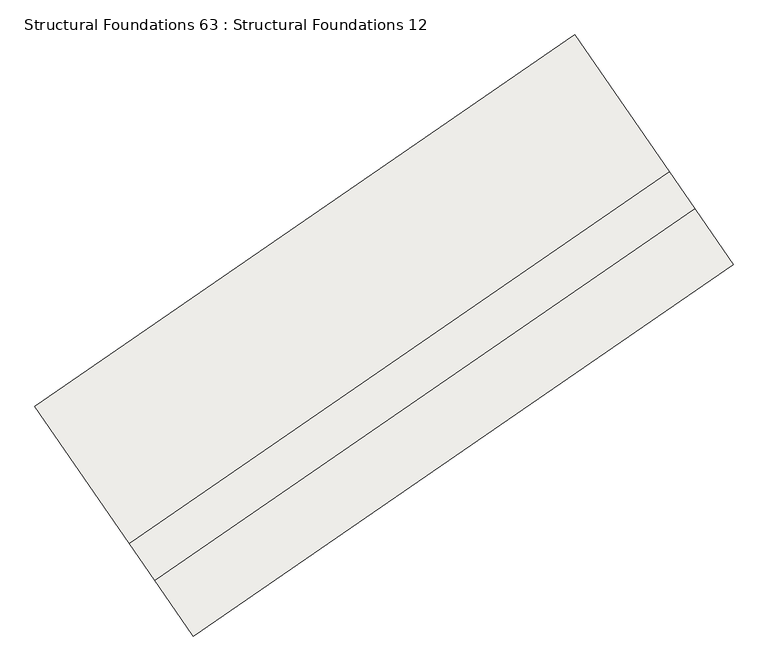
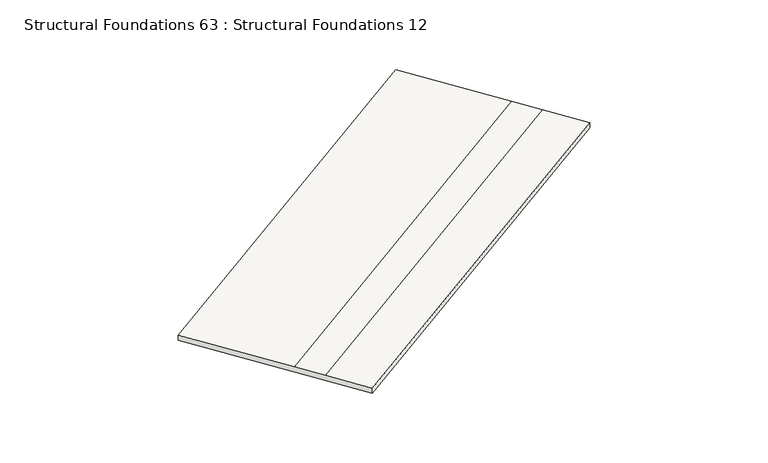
"""IFC4 building model written with IfcOpenShell, lengths in millimetres: slab geometry, Structural Foundations 63 : Structural Foundations 12."""

from ifc_helpers import new_model, si_unit, origin, place, context, project, spatial, faceted_brep, source, transform, mapped, element, save


def structural_foundations_63_structural_foundations_12_b571f0eb(model_context):
    return source(origin(), model_context, "Body", "Brep", [
        faceted_brep([(-339091.6005474, -437965.5950197, 633897.9999996), (-338581.0589332, -438706.7746616, 633897.9999995), (-338581.0589332, -438706.7746616, 633797.9999995), (-340679.9522341, -435659.702803, 633798.0), (-340679.9522341, -435659.702803, 633898.0), (-339429.1252802, -437475.5929245, 633897.9999997), (-346256.3370797, -442900.8306191, 633824.7695116), (-346593.8618126, -442410.828524, 633824.7695117), (-347844.6887665, -440594.9384024, 633824.7695121), (-347844.6887665, -440594.9384024, 633724.7695121), (-345745.7954656, -443642.010261, 633724.7695115), (-345745.7954656, -443642.010261, 633824.7695115)], [[[0, 1, 2, 3, 4, 5]], [[6, 7, 8, 9, 10, 11]], [[8, 7, 5, 4]], [[7, 6, 0, 5]], [[6, 11, 1, 0]], [[11, 10, 2, 1]], [[10, 9, 3, 2]], [[9, 8, 4, 3]]]),
    ])


if __name__ == "__main__":
    model = new_model("IFC4")
    model_context = context("Model", 3, world=origin())
    ifc_project = project(units=[si_unit("LENGTHUNIT", "METRE", prefix="MILLI")], contexts=[model_context])
    site = spatial("IfcSite", under=ifc_project)
    building = spatial("IfcBuilding", under=site)
    placement = place(None, origin())
    structural_foundations_63_structural_foundations_12_shape = structural_foundations_63_structural_foundations_12_b571f0eb(model_context)
    element("IfcSlab", 1, ObjectType="Structural Foundations 63 : Structural Foundations 12", at=placement, inside=building, context=model_context, shape_type="MappedRepresentation", body=[
        mapped(structural_foundations_63_structural_foundations_12_shape, transform((0.0, 0.0, 0.0), x_axis=(1.0, 0.0, 0.0), y_axis=(0.0, 1.0, 0.0), z_axis=(0.0, 0.0, 1.0))),
    ])
    save(model, "model.ifc")
